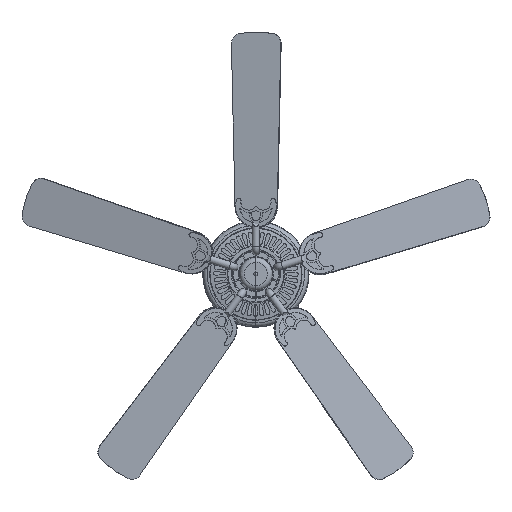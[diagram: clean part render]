
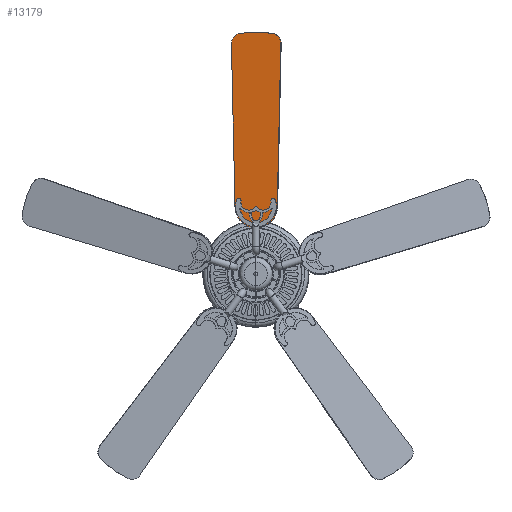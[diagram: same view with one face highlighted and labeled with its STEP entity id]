
A CAD part, top view. The second image highlights one B-rep face of the part: STEP entity #13179.
In plain terms, the highlighted planar face has unit normal (-0.174, 0, 0.985).
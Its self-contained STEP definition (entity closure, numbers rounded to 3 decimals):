
#1174=PLANE('',#14308);
#1658=FACE_OUTER_BOUND('',#2446,.T.);
#2446=EDGE_LOOP('',(#9754,#9755,#9756,#9757,#9758,#9759));
#3449=CIRCLE('',#14296,262.591);
#3451=CIRCLE('',#14299,27.316);
#3453=CIRCLE('',#14303,58.688);
#3455=CIRCLE('',#14307,27.316);
#3859=LINE('',#19584,#4629);
#3863=LINE('',#19596,#4633);
#4629=VECTOR('',#16414,304.8);
#4633=VECTOR('',#16426,304.8);
#5534=VERTEX_POINT('',#19566);
#5536=VERTEX_POINT('',#19570);
#5538=VERTEX_POINT('',#19576);
#5540=VERTEX_POINT('',#19582);
#5542=VERTEX_POINT('',#19588);
#5544=VERTEX_POINT('',#19594);
#7069=EDGE_CURVE('',#5534,#5536,#3449,.T.);
#7072=EDGE_CURVE('',#5536,#5538,#3451,.T.);
#7075=EDGE_CURVE('',#5538,#5540,#3859,.T.);
#7078=EDGE_CURVE('',#5540,#5542,#3453,.T.);
#7081=EDGE_CURVE('',#5542,#5544,#3863,.T.);
#7083=EDGE_CURVE('',#5544,#5534,#3455,.T.);
#9754=ORIENTED_EDGE('',*,*,#7081,.T.);
#9755=ORIENTED_EDGE('',*,*,#7083,.T.);
#9756=ORIENTED_EDGE('',*,*,#7069,.T.);
#9757=ORIENTED_EDGE('',*,*,#7072,.T.);
#9758=ORIENTED_EDGE('',*,*,#7075,.T.);
#9759=ORIENTED_EDGE('',*,*,#7078,.T.);
#13179=ADVANCED_FACE('',(#1658),#1174,.F.);
#14296=AXIS2_PLACEMENT_3D('',#19572,#16401,#16402);
#14299=AXIS2_PLACEMENT_3D('',#19578,#16408,#16409);
#14303=AXIS2_PLACEMENT_3D('',#19590,#16420,#16421);
#14307=AXIS2_PLACEMENT_3D('',#19599,#16431,#16432);
#14308=AXIS2_PLACEMENT_3D('',#19600,#16433,#16434);
#16401=DIRECTION('center_axis',(-0.174,0.,
0.985));
#16402=DIRECTION('ref_axis',(-0.985,0.,-0.174));
#16408=DIRECTION('center_axis',(-0.174,0.,
0.985));
#16409=DIRECTION('ref_axis',(0.985,0.,0.174));
#16414=DIRECTION('',(0.022,-1.,0.004));
#16420=DIRECTION('center_axis',(-0.174,0.,
0.985));
#16421=DIRECTION('ref_axis',(-0.985,0.,-0.174));
#16426=DIRECTION('',(0.022,1.,0.004));
#16431=DIRECTION('center_axis',(-0.174,0.,
0.985));
#16432=DIRECTION('ref_axis',(-0.985,0.,-0.174));
#16433=DIRECTION('center_axis',(0.174,0.,-0.985));
#16434=DIRECTION('ref_axis',(0.,1.,0.));
#19566=CARTESIAN_POINT('',(46.101,658.108,258.817));
#19570=CARTESIAN_POINT('',(-44.712,658.108,242.805));
#19572=CARTESIAN_POINT('Origin',(0.695,399.597,250.811));
#19576=CARTESIAN_POINT('',(-66.883,630.608,238.895));
#19578=CARTESIAN_POINT('Origin',(-39.988,631.217,243.638));
#19582=CARTESIAN_POINT('',(-57.102,185.289,240.62));
#19584=CARTESIAN_POINT('',(-66.883,630.608,238.895));
#19588=CARTESIAN_POINT('',(58.491,185.289,261.002));
#19590=CARTESIAN_POINT('Origin',(0.695,185.289,250.811));
#19594=CARTESIAN_POINT('',(68.272,630.608,262.727));
#19596=CARTESIAN_POINT('',(58.491,185.289,261.002));
#19599=CARTESIAN_POINT('Origin',(41.378,631.217,257.985));
#19600=CARTESIAN_POINT('Origin',(-57.102,185.289,240.62));
